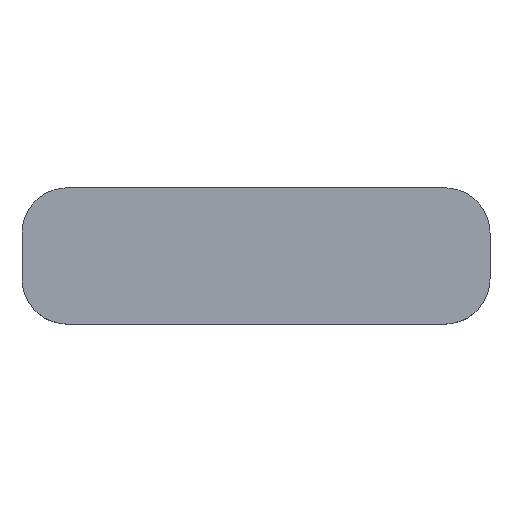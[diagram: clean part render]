
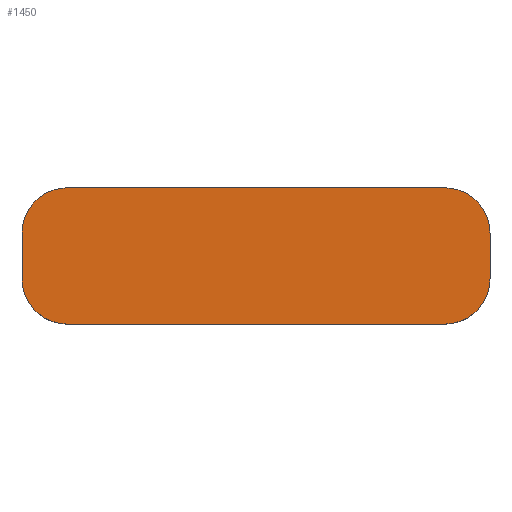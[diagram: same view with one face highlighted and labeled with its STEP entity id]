
A CAD part, top view. The second image highlights one B-rep face of the part: STEP entity #1450.
In plain terms, the highlighted planar face has unit normal (0, 0, 1).
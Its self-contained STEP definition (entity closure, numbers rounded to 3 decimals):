
#13 = CARTESIAN_POINT ( 'NONE',  ( -9.106, 6.712, 6. ) ) ;
#15 = DIRECTION ( 'NONE',  ( -1., 0., 0. ) ) ;
#20 = AXIS2_PLACEMENT_3D ( 'NONE', #984, #788, #327 ) ;
#31 = CARTESIAN_POINT ( 'NONE',  ( -10.106, -3.288, 6. ) ) ;
#73 = ORIENTED_EDGE ( 'NONE', *, *, #1356, .F. ) ;
#91 = ORIENTED_EDGE ( 'NONE', *, *, #1504, .T. ) ;
#92 = AXIS2_PLACEMENT_3D ( 'NONE', #249, #143, #847 ) ;
#105 = CIRCLE ( 'NONE', #322, 5. ) ;
#138 = AXIS2_PLACEMENT_3D ( 'NONE', #1219, #696, #571 ) ;
#143 = DIRECTION ( 'NONE',  ( 0., 0., 1. ) ) ;
#174 = DIRECTION ( 'NONE',  ( 0., 1., 0. ) ) ;
#209 = DIRECTION ( 'NONE',  ( 0., 0., 1. ) ) ;
#220 = CIRCLE ( 'NONE', #330, 5. ) ;
#249 = CARTESIAN_POINT ( 'NONE',  ( -5.106, -3.288, 6. ) ) ;
#298 = DIRECTION ( 'NONE',  ( 1., 0., 0. ) ) ;
#322 = AXIS2_PLACEMENT_3D ( 'NONE', #1192, #1128, #991 ) ;
#327 = DIRECTION ( 'NONE',  ( 1., 0., 0. ) ) ;
#330 = AXIS2_PLACEMENT_3D ( 'NONE', #1457, #209, #298 ) ;
#364 = VERTEX_POINT ( 'NONE', #452 ) ;
#394 = CIRCLE ( 'NONE', #92, 5. ) ;
#396 = VECTOR ( 'NONE', #15, 1000. ) ;
#415 = LINE ( 'NONE', #1098, #474 ) ;
#444 = VECTOR ( 'NONE', #174, 1000. ) ;
#446 = LINE ( 'NONE', #723, #444 ) ;
#452 = CARTESIAN_POINT ( 'NONE',  ( -5.106, -8.288, 6. ) ) ;
#474 = VECTOR ( 'NONE', #512, 1000. ) ;
#512 = DIRECTION ( 'NONE',  ( 0., -1., 0. ) ) ;
#534 = CIRCLE ( 'NONE', #138, 5. ) ;
#542 = ORIENTED_EDGE ( 'NONE', *, *, #838, .T. ) ;
#567 = CARTESIAN_POINT ( 'NONE',  ( 41.394, 1.712, 6. ) ) ;
#571 = DIRECTION ( 'NONE',  ( 1., 0., 0. ) ) ;
#582 = ORIENTED_EDGE ( 'NONE', *, *, #1269, .F. ) ;
#588 = CARTESIAN_POINT ( 'NONE',  ( 36.394, 6.712, 6. ) ) ;
#612 = LINE ( 'NONE', #1165, #396 ) ;
#629 = EDGE_CURVE ( 'NONE', #1353, #727, #1362, .T. ) ;
#659 = DIRECTION ( 'NONE',  ( 1., 0., 0. ) ) ;
#673 = ORIENTED_EDGE ( 'NONE', *, *, #1251, .T. ) ;
#679 = CARTESIAN_POINT ( 'NONE',  ( 41.394, -3.288, 6. ) ) ;
#681 = EDGE_LOOP ( 'NONE', ( #688, #91, #73, #673, #682, #1500, #582, #542 ) ) ;
#682 = ORIENTED_EDGE ( 'NONE', *, *, #1248, .F. ) ;
#688 = ORIENTED_EDGE ( 'NONE', *, *, #629, .F. ) ;
#696 = DIRECTION ( 'NONE',  ( 0., 0., 1. ) ) ;
#711 = CARTESIAN_POINT ( 'NONE',  ( -10.106, 1.712, 6. ) ) ;
#723 = CARTESIAN_POINT ( 'NONE',  ( -10.106, -8.288, 6. ) ) ;
#727 = VERTEX_POINT ( 'NONE', #588 ) ;
#747 = CARTESIAN_POINT ( 'NONE',  ( 36.394, -8.288, 6. ) ) ;
#788 = DIRECTION ( 'NONE',  ( 0., 0., 1. ) ) ;
#832 = VERTEX_POINT ( 'NONE', #747 ) ;
#838 = EDGE_CURVE ( 'NONE', #1016, #727, #534, .T. ) ;
#847 = DIRECTION ( 'NONE',  ( 1., 0., 0. ) ) ;
#899 = VERTEX_POINT ( 'NONE', #711 ) ;
#984 = CARTESIAN_POINT ( 'NONE',  ( 0., 0., 6. ) ) ;
#991 = DIRECTION ( 'NONE',  ( 1., 0., 0. ) ) ;
#1016 = VERTEX_POINT ( 'NONE', #567 ) ;
#1098 = CARTESIAN_POINT ( 'NONE',  ( 41.394, 6.712, 6. ) ) ;
#1118 = VECTOR ( 'NONE', #659, 1000. ) ;
#1128 = DIRECTION ( 'NONE',  ( 0., 0., 1. ) ) ;
#1131 = PLANE ( 'NONE',  #20 ) ;
#1147 = VERTEX_POINT ( 'NONE', #31 ) ;
#1165 = CARTESIAN_POINT ( 'NONE',  ( 40.394, -8.288, 6. ) ) ;
#1192 = CARTESIAN_POINT ( 'NONE',  ( 36.394, -3.288, 6. ) ) ;
#1219 = CARTESIAN_POINT ( 'NONE',  ( 36.394, 1.712, 6. ) ) ;
#1226 = CARTESIAN_POINT ( 'NONE',  ( -5.106, 6.712, 6. ) ) ;
#1248 = EDGE_CURVE ( 'NONE', #832, #364, #612, .T. ) ;
#1251 = EDGE_CURVE ( 'NONE', #1147, #364, #394, .T. ) ;
#1269 = EDGE_CURVE ( 'NONE', #1016, #1376, #415, .T. ) ;
#1273 = FACE_OUTER_BOUND ( 'NONE', #681, .T. ) ;
#1353 = VERTEX_POINT ( 'NONE', #1226 ) ;
#1356 = EDGE_CURVE ( 'NONE', #1147, #899, #446, .T. ) ;
#1362 = LINE ( 'NONE', #13, #1118 ) ;
#1376 = VERTEX_POINT ( 'NONE', #679 ) ;
#1450 = ADVANCED_FACE ( 'NONE', ( #1273 ), #1131, .T. ) ;
#1457 = CARTESIAN_POINT ( 'NONE',  ( -5.106, 1.712, 6. ) ) ;
#1498 = EDGE_CURVE ( 'NONE', #832, #1376, #105, .T. ) ;
#1500 = ORIENTED_EDGE ( 'NONE', *, *, #1498, .T. ) ;
#1504 = EDGE_CURVE ( 'NONE', #1353, #899, #220, .T. ) ;
